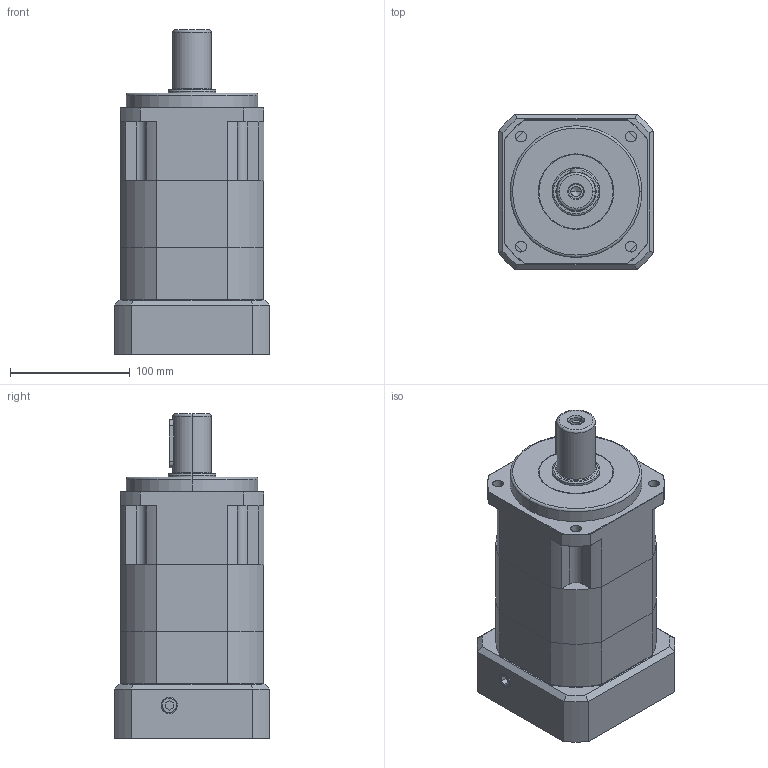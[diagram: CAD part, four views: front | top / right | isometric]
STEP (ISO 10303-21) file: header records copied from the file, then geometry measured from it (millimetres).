
FILE_DESCRIPTION (( 'STEP AP203' ), '1' );
FILE_NAME ('SB120A-2-110M8-2.STEP', '2011-07-11T08:48:50', ( '1' ), ( '' ), 'SwSTEP 2.0', 'SolidWorks 2011', '' );
FILE_SCHEMA (( 'CONFIG_CONTROL_DESIGN' ));
Length unit declared in the file: millimetre
Products named in the file (1): SB120A-2-110M8-2
Bounding box: 130 x 130 x 271 mm (x, y, z)
Volume: 2249270.5 mm3; surface area: 307625.9 mm2
Topology: 17 solids, 17 shells, 726 faces, 1744 edges, 1077 vertices
Faces by surface type: plane 271, cylinder 224, cone 151, torus 58, bspline 20, sphere 2
Entity records: 22738 total; most frequent: CARTESIAN_POINT 5534, DIRECTION 3761, ORIENTED_EDGE 3432, EDGE_CURVE 1716, AXIS2_PLACEMENT_3D 1460, VERTEX_POINT 1077, VECTOR 841, LINE 841
